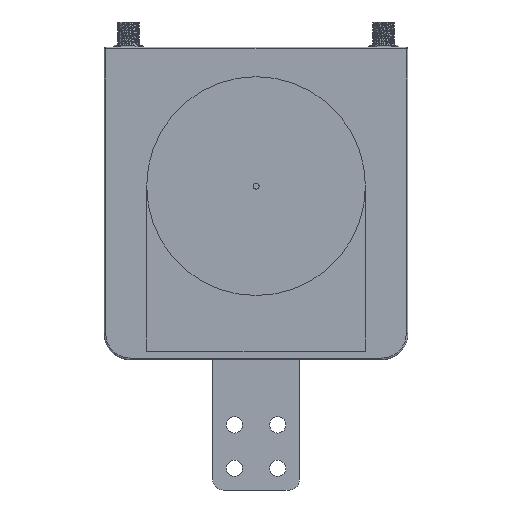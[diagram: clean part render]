
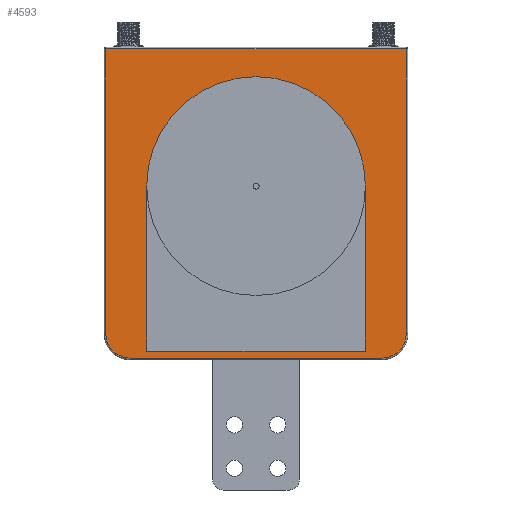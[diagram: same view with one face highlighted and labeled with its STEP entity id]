
A CAD part, front view. The second image highlights one B-rep face of the part: STEP entity #4593.
In plain terms, the highlighted planar face has unit normal (0, -1, 0).
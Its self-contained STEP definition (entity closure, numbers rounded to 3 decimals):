
#294 = LINE ( 'NONE', #32856, #34072 ) ;
#466 = VERTEX_POINT ( 'NONE', #1270 ) ;
#610 = CARTESIAN_POINT ( 'NONE',  ( 86.5, 0., 89. ) ) ;
#1270 = CARTESIAN_POINT ( 'NONE',  ( -72.5, 0., -89. ) ) ;
#1285 = DIRECTION ( 'NONE',  ( 0., 0., -1. ) ) ;
#1462 = DIRECTION ( 'NONE',  ( 0., 1., 0. ) ) ;
#1476 = LINE ( 'NONE', #4310, #26513 ) ;
#1700 = ORIENTED_EDGE ( 'NONE', *, *, #22883, .T. ) ;
#1871 = EDGE_CURVE ( 'NONE', #33786, #21927, #11639, .T. ) ;
#1881 = AXIS2_PLACEMENT_3D ( 'NONE', #10630, #19518, #6002 ) ;
#2913 = VERTEX_POINT ( 'NONE', #18573 ) ;
#3311 = DIRECTION ( 'NONE',  ( 1., 0., 0. ) ) ;
#4310 = CARTESIAN_POINT ( 'NONE',  ( 63.026, 0., 10. ) ) ;
#4569 = LINE ( 'NONE', #26098, #10928 ) ;
#4593 = ADVANCED_FACE ( 'NONE', ( #6052, #32929 ), #5368, .F. ) ;
#4883 = LINE ( 'NONE', #26587, #14585 ) ;
#5231 = CARTESIAN_POINT ( 'NONE',  ( -86.5, 0., 89. ) ) ;
#5368 = PLANE ( 'NONE',  #33046 ) ;
#5737 = DIRECTION ( 'NONE',  ( 0., 0., -1. ) ) ;
#6002 = DIRECTION ( 'NONE',  ( 0., 0., 1. ) ) ;
#6052 = FACE_BOUND ( 'NONE', #31165, .T. ) ;
#6567 = ORIENTED_EDGE ( 'NONE', *, *, #12471, .F. ) ;
#6661 = VERTEX_POINT ( 'NONE', #30268 ) ;
#7243 = ORIENTED_EDGE ( 'NONE', *, *, #20616, .T. ) ;
#7293 = ORIENTED_EDGE ( 'NONE', *, *, #15219, .F. ) ;
#7488 = DIRECTION ( 'NONE',  ( 0., 0., 1. ) ) ;
#7765 = DIRECTION ( 'NONE',  ( 0., 0., -1. ) ) ;
#8364 = VERTEX_POINT ( 'NONE', #25334 ) ;
#8558 = CARTESIAN_POINT ( 'NONE',  ( 0.026, 0., 10. ) ) ;
#8847 = AXIS2_PLACEMENT_3D ( 'NONE', #20495, #1462, #1285 ) ;
#8863 = ORIENTED_EDGE ( 'NONE', *, *, #23874, .F. ) ;
#9497 = EDGE_CURVE ( 'NONE', #26096, #6661, #34598, .T. ) ;
#9647 = DIRECTION ( 'NONE',  ( 0., -1., 0. ) ) ;
#10630 = CARTESIAN_POINT ( 'NONE',  ( 72.5, 0., -75. ) ) ;
#10928 = VECTOR ( 'NONE', #20243, 1000. ) ;
#11639 = LINE ( 'NONE', #25007, #17608 ) ;
#12471 = EDGE_CURVE ( 'NONE', #23757, #23624, #19435, .T. ) ;
#13379 = EDGE_CURVE ( 'NONE', #16458, #26096, #4569, .T. ) ;
#14054 = DIRECTION ( 'NONE',  ( 0., 0., 1. ) ) ;
#14585 = VECTOR ( 'NONE', #25884, 1000. ) ;
#15219 = EDGE_CURVE ( 'NONE', #21927, #2913, #1476, .T. ) ;
#15318 = DIRECTION ( 'NONE',  ( 0., 0., 1. ) ) ;
#16156 = LINE ( 'NONE', #31233, #17316 ) ;
#16458 = VERTEX_POINT ( 'NONE', #610 ) ;
#16567 = DIRECTION ( 'NONE',  ( 0., 1., 0. ) ) ;
#16715 = CARTESIAN_POINT ( 'NONE',  ( 0., 0., 0. ) ) ;
#17316 = VECTOR ( 'NONE', #25711, 1000. ) ;
#17521 = EDGE_LOOP ( 'NONE', ( #1700, #31996, #18551, #20253, #19464, #7243 ) ) ;
#17608 = VECTOR ( 'NONE', #3311, 1000. ) ;
#17763 = ORIENTED_EDGE ( 'NONE', *, *, #1871, .F. ) ;
#17943 = CIRCLE ( 'NONE', #8847, 63. ) ;
#18520 = AXIS2_PLACEMENT_3D ( 'NONE', #34558, #9647, #7488 ) ;
#18551 = ORIENTED_EDGE ( 'NONE', *, *, #9497, .T. ) ;
#18573 = CARTESIAN_POINT ( 'NONE',  ( 63.026, 0., 10. ) ) ;
#19343 = EDGE_CURVE ( 'NONE', #6661, #466, #31618, .T. ) ;
#19435 = CIRCLE ( 'NONE', #27943, 63. ) ;
#19464 = ORIENTED_EDGE ( 'NONE', *, *, #34351, .T. ) ;
#19518 = DIRECTION ( 'NONE',  ( 0., -1., 0. ) ) ;
#20243 = DIRECTION ( 'NONE',  ( -1., 0., 0. ) ) ;
#20253 = ORIENTED_EDGE ( 'NONE', *, *, #19343, .T. ) ;
#20495 = CARTESIAN_POINT ( 'NONE',  ( 0.026, 0., 10. ) ) ;
#20616 = EDGE_CURVE ( 'NONE', #8364, #25162, #23489, .T. ) ;
#21789 = DIRECTION ( 'NONE',  ( 0., 0., -1. ) ) ;
#21927 = VERTEX_POINT ( 'NONE', #30301 ) ;
#22883 = EDGE_CURVE ( 'NONE', #25162, #16458, #16156, .T. ) ;
#23489 = CIRCLE ( 'NONE', #1881, 14. ) ;
#23624 = VERTEX_POINT ( 'NONE', #32584 ) ;
#23630 = CARTESIAN_POINT ( 'NONE',  ( 0.026, 0., -53. ) ) ;
#23757 = VERTEX_POINT ( 'NONE', #23630 ) ;
#23874 = EDGE_CURVE ( 'NONE', #23624, #33786, #294, .T. ) ;
#25007 = CARTESIAN_POINT ( 'NONE',  ( 63.026, 0., -85. ) ) ;
#25162 = VERTEX_POINT ( 'NONE', #33240 ) ;
#25334 = CARTESIAN_POINT ( 'NONE',  ( 72.5, 0., -89. ) ) ;
#25711 = DIRECTION ( 'NONE',  ( 0., 0., 1. ) ) ;
#25884 = DIRECTION ( 'NONE',  ( 1., 0., 0. ) ) ;
#26096 = VERTEX_POINT ( 'NONE', #5231 ) ;
#26098 = CARTESIAN_POINT ( 'NONE',  ( 0., 0., 89. ) ) ;
#26513 = VECTOR ( 'NONE', #15318, 1000. ) ;
#26587 = CARTESIAN_POINT ( 'NONE',  ( 0., 0., -89. ) ) ;
#27061 = VECTOR ( 'NONE', #21789, 1000. ) ;
#27410 = DIRECTION ( 'NONE',  ( 0., 1., 0. ) ) ;
#27943 = AXIS2_PLACEMENT_3D ( 'NONE', #8558, #16567, #5737 ) ;
#29362 = ORIENTED_EDGE ( 'NONE', *, *, #33542, .F. ) ;
#30268 = CARTESIAN_POINT ( 'NONE',  ( -86.5, 0., -75. ) ) ;
#30301 = CARTESIAN_POINT ( 'NONE',  ( 63.026, 0., -85. ) ) ;
#31165 = EDGE_LOOP ( 'NONE', ( #8863, #6567, #29362, #7293, #17763 ) ) ;
#31233 = CARTESIAN_POINT ( 'NONE',  ( 86.5, 0., 0. ) ) ;
#31618 = CIRCLE ( 'NONE', #18520, 14. ) ;
#31996 = ORIENTED_EDGE ( 'NONE', *, *, #13379, .T. ) ;
#32584 = CARTESIAN_POINT ( 'NONE',  ( -62.974, 0., 10. ) ) ;
#32856 = CARTESIAN_POINT ( 'NONE',  ( -62.974, 0., -85. ) ) ;
#32927 = CARTESIAN_POINT ( 'NONE',  ( -62.974, 0., -85. ) ) ;
#32929 = FACE_OUTER_BOUND ( 'NONE', #17521, .T. ) ;
#33046 = AXIS2_PLACEMENT_3D ( 'NONE', #16715, #27410, #14054 ) ;
#33240 = CARTESIAN_POINT ( 'NONE',  ( 86.5, 0., -75. ) ) ;
#33542 = EDGE_CURVE ( 'NONE', #2913, #23757, #17943, .T. ) ;
#33786 = VERTEX_POINT ( 'NONE', #32927 ) ;
#34072 = VECTOR ( 'NONE', #7765, 1000. ) ;
#34351 = EDGE_CURVE ( 'NONE', #466, #8364, #4883, .T. ) ;
#34558 = CARTESIAN_POINT ( 'NONE',  ( -72.5, 0., -75. ) ) ;
#34598 = LINE ( 'NONE', #34775, #27061 ) ;
#34775 = CARTESIAN_POINT ( 'NONE',  ( -86.5, 0., 0. ) ) ;
